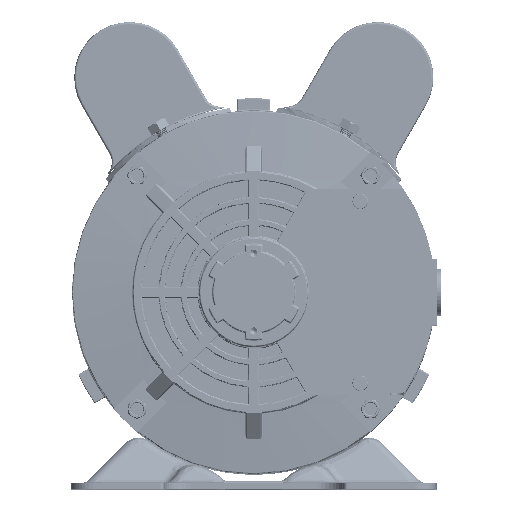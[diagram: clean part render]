
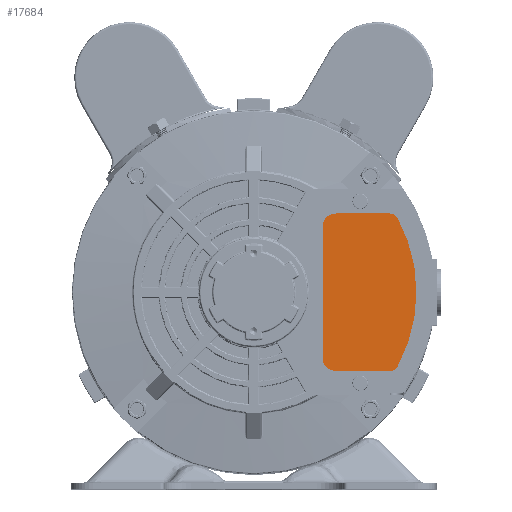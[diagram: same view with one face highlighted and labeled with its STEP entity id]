
A CAD part, top view. The second image highlights one B-rep face of the part: STEP entity #17684.
In plain terms, the highlighted planar face has unit normal (0, 0, 1).
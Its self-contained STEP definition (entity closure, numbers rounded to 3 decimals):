
#464 = LINE ( 'NONE', #37210, #28986 ) ;
#2174 = LINE ( 'NONE', #38935, #37806 ) ;
#2724 = VERTEX_POINT ( 'NONE', #7630 ) ;
#4737 = DIRECTION ( 'NONE',  ( 0., 0., 1. ) ) ;
#7056 = EDGE_CURVE ( 'NONE', #75773, #80142, #2174, .T. ) ;
#7092 = DIRECTION ( 'NONE',  ( 0., -1., 0. ) ) ;
#7630 = CARTESIAN_POINT ( 'NONE',  ( 45.4, -8.74, 490.625 ) ) ;
#8935 = ORIENTED_EDGE ( 'NONE', *, *, #61427, .T. ) ;
#10964 = ORIENTED_EDGE ( 'NONE', *, *, #74065, .T. ) ;
#13562 = VECTOR ( 'NONE', #91485, 1000. ) ;
#13749 = CIRCLE ( 'NONE', #81115, 4. ) ;
#15295 = DIRECTION ( 'NONE',  ( 0., -1., 0. ) ) ;
#17684 = ADVANCED_FACE ( 'NONE', ( #28009 ), #64755, .T. ) ;
#17946 = LINE ( 'NONE', #54697, #13562 ) ;
#18936 = DIRECTION ( 'NONE',  ( 0., 0., 1. ) ) ;
#21125 = EDGE_LOOP ( 'NONE', ( #57841, #8935, #67707, #115198, #114138, #10964, #55882, #45149 ) ) ;
#28009 = FACE_OUTER_BOUND ( 'NONE', #21125, .T. ) ;
#28986 = VECTOR ( 'NONE', #73981, 1000. ) ;
#32728 = DIRECTION ( 'NONE',  ( 0., -1., 0. ) ) ;
#33629 = CIRCLE ( 'NONE', #101019, 6. ) ;
#35169 = DIRECTION ( 'NONE',  ( 0., -1., 0. ) ) ;
#36544 = CARTESIAN_POINT ( 'NONE',  ( 41.885, 60.169, 490.625 ) ) ;
#37210 = CARTESIAN_POINT ( 'NONE',  ( 44.217, 60.169, 490.625 ) ) ;
#37806 = VECTOR ( 'NONE', #75705, 1000. ) ;
#38935 = CARTESIAN_POINT ( 'NONE',  ( 11.507, 60.169, 490.625 ) ) ;
#41491 = DIRECTION ( 'NONE',  ( 0., -1., 0. ) ) ;
#45149 = ORIENTED_EDGE ( 'NONE', *, *, #51632, .T. ) ;
#46961 = AXIS2_PLACEMENT_3D ( 'NONE', #78536, #115309, #32728 ) ;
#51632 = EDGE_CURVE ( 'NONE', #80142, #61649, #33629, .T. ) ;
#52872 = CARTESIAN_POINT ( 'NONE',  ( 17.507, -4.831, 490.625 ) ) ;
#53628 = VERTEX_POINT ( 'NONE', #64447 ) ;
#54697 = CARTESIAN_POINT ( 'NONE',  ( 11.507, -10.831, 490.625 ) ) ;
#55679 = DIRECTION ( 'NONE',  ( 1., 0., 0. ) ) ;
#55882 = ORIENTED_EDGE ( 'NONE', *, *, #7056, .T. ) ;
#57841 = ORIENTED_EDGE ( 'NONE', *, *, #101940, .T. ) ;
#61123 = CARTESIAN_POINT ( 'NONE',  ( 41.885, -6.831, 490.625 ) ) ;
#61427 = EDGE_CURVE ( 'NONE', #102227, #2724, #13749, .T. ) ;
#61649 = VERTEX_POINT ( 'NONE', #70019 ) ;
#62574 = EDGE_CURVE ( 'NONE', #2724, #116961, #96699, .T. ) ;
#64447 = CARTESIAN_POINT ( 'NONE',  ( 17.507, 60.169, 490.625 ) ) ;
#64755 = PLANE ( 'NONE',  #98058 ) ;
#67707 = ORIENTED_EDGE ( 'NONE', *, *, #62574, .T. ) ;
#70019 = CARTESIAN_POINT ( 'NONE',  ( 17.507, -10.831, 490.625 ) ) ;
#73631 = CARTESIAN_POINT ( 'NONE',  ( 11.507, -4.831, 490.625 ) ) ;
#73981 = DIRECTION ( 'NONE',  ( -1., 0., 0. ) ) ;
#74065 = EDGE_CURVE ( 'NONE', #53628, #75773, #93549, .T. ) ;
#75705 = DIRECTION ( 'NONE',  ( 0., -1., 0. ) ) ;
#75773 = VERTEX_POINT ( 'NONE', #80233 ) ;
#78536 = CARTESIAN_POINT ( 'NONE',  ( 41.885, 56.169, 490.625 ) ) ;
#80142 = VERTEX_POINT ( 'NONE', #73631 ) ;
#80233 = CARTESIAN_POINT ( 'NONE',  ( 11.507, 54.169, 490.625 ) ) ;
#80981 = CARTESIAN_POINT ( 'NONE',  ( -16.113, 24.669, 490.625 ) ) ;
#81115 = AXIS2_PLACEMENT_3D ( 'NONE', #61123, #97889, #15295 ) ;
#81580 = CARTESIAN_POINT ( 'NONE',  ( 45.4, 58.078, 490.625 ) ) ;
#87288 = CARTESIAN_POINT ( 'NONE',  ( 17.507, 54.169, 490.625 ) ) ;
#89542 = CARTESIAN_POINT ( 'NONE',  ( 41.885, -10.831, 490.625 ) ) ;
#89660 = DIRECTION ( 'NONE',  ( 0., 0., 1. ) ) ;
#90506 = VERTEX_POINT ( 'NONE', #36544 ) ;
#91485 = DIRECTION ( 'NONE',  ( 1., 0., 0. ) ) ;
#93549 = CIRCLE ( 'NONE', #108955, 6. ) ;
#96699 = CIRCLE ( 'NONE', #112123, 70. ) ;
#97889 = DIRECTION ( 'NONE',  ( 0., 0., 1. ) ) ;
#98058 = AXIS2_PLACEMENT_3D ( 'NONE', #101532, #18936, #55679 ) ;
#98952 = CIRCLE ( 'NONE', #46961, 4. ) ;
#101019 = AXIS2_PLACEMENT_3D ( 'NONE', #52872, #89660, #7092 ) ;
#101532 = CARTESIAN_POINT ( 'NONE',  ( -16.113, 24.669, 490.625 ) ) ;
#101940 = EDGE_CURVE ( 'NONE', #61649, #102227, #17946, .T. ) ;
#101960 = EDGE_CURVE ( 'NONE', #90506, #53628, #464, .T. ) ;
#102227 = VERTEX_POINT ( 'NONE', #89542 ) ;
#106035 = EDGE_CURVE ( 'NONE', #116961, #90506, #98952, .T. ) ;
#108955 = AXIS2_PLACEMENT_3D ( 'NONE', #87288, #4737, #41491 ) ;
#112123 = AXIS2_PLACEMENT_3D ( 'NONE', #80981, #117756, #35169 ) ;
#114138 = ORIENTED_EDGE ( 'NONE', *, *, #101960, .T. ) ;
#115198 = ORIENTED_EDGE ( 'NONE', *, *, #106035, .T. ) ;
#115309 = DIRECTION ( 'NONE',  ( 0., 0., 1. ) ) ;
#116961 = VERTEX_POINT ( 'NONE', #81580 ) ;
#117756 = DIRECTION ( 'NONE',  ( 0., 0., 1. ) ) ;
